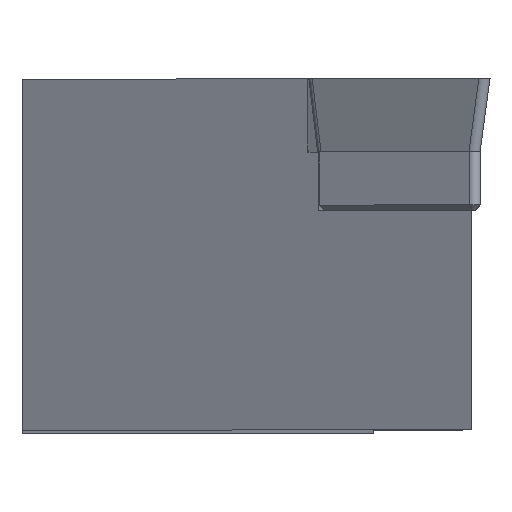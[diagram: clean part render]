
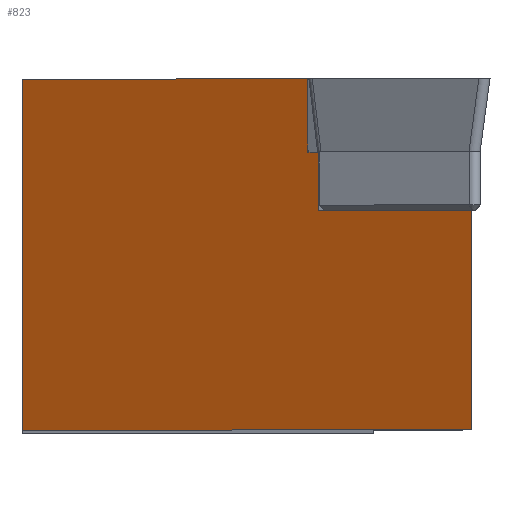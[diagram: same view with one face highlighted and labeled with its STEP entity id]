
A CAD part, top view. The second image highlights one B-rep face of the part: STEP entity #823.
In plain terms, the highlighted planar face has unit normal (-0.53, 0, 0.848).
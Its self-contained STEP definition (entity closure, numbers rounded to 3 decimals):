
#22 = ORIENTED_EDGE ( 'NONE', *, *, #1272, .T. ) ;
#98 = CARTESIAN_POINT ( 'NONE',  ( -12.7, 9.525, -15.692 ) ) ;
#109 = DIRECTION ( 'NONE',  ( 0., -1., 0. ) ) ;
#127 = EDGE_CURVE ( 'NONE', #562, #1043, #810, .T. ) ;
#175 = ORIENTED_EDGE ( 'NONE', *, *, #1026, .F. ) ;
#216 = LINE ( 'NONE', #98, #1587 ) ;
#274 = DIRECTION ( 'NONE',  ( 0.53, 0., -0.848 ) ) ;
#351 = LINE ( 'NONE', #580, #1597 ) ;
#357 = DIRECTION ( 'NONE',  ( 0., -1., 0. ) ) ;
#393 = EDGE_CURVE ( 'NONE', #1175, #1471, #216, .T. ) ;
#407 = DIRECTION ( 'NONE',  ( -0.848, 0., -0.53 ) ) ;
#412 = LINE ( 'NONE', #842, #512 ) ;
#432 = CARTESIAN_POINT ( 'NONE',  ( -12.7, -9.525, -15.692 ) ) ;
#441 = AXIS2_PLACEMENT_3D ( 'NONE', #975, #274, #407 ) ;
#501 = CARTESIAN_POINT ( 'NONE',  ( 12.591, 5.555, 0.111 ) ) ;
#512 = VECTOR ( 'NONE', #698, 1000. ) ;
#534 = CARTESIAN_POINT ( 'NONE',  ( 11.675, 2.375, -0.461 ) ) ;
#551 = EDGE_LOOP ( 'NONE', ( #1736, #175, #1639, #22, #1680, #1238, #1072, #1073 ) ) ;
#562 = VERTEX_POINT ( 'NONE', #1380 ) ;
#580 = CARTESIAN_POINT ( 'NONE',  ( -15.548, 9.525, -17.472 ) ) ;
#639 = CARTESIAN_POINT ( 'NONE',  ( 11.675, -9.525, -0.461 ) ) ;
#677 = CARTESIAN_POINT ( 'NONE',  ( -15.548, -9.525, -17.472 ) ) ;
#688 = VECTOR ( 'NONE', #357, 1000. ) ;
#698 = DIRECTION ( 'NONE',  ( 0., 1., 0. ) ) ;
#810 = LINE ( 'NONE', #501, #1123 ) ;
#822 = EDGE_CURVE ( 'NONE', #960, #969, #412, .T. ) ;
#823 = ADVANCED_FACE ( 'NONE', ( #1519 ), #1110, .F. ) ;
#824 = CARTESIAN_POINT ( 'NONE',  ( 3.393, 2.375, -5.637 ) ) ;
#842 = CARTESIAN_POINT ( 'NONE',  ( 11.675, -9.525, -0.461 ) ) ;
#885 = LINE ( 'NONE', #1562, #1502 ) ;
#909 = VECTOR ( 'NONE', #1351, 1000. ) ;
#960 = VERTEX_POINT ( 'NONE', #639 ) ;
#969 = VERTEX_POINT ( 'NONE', #534 ) ;
#975 = CARTESIAN_POINT ( 'NONE',  ( -15.548, -9.525, -17.472 ) ) ;
#976 = DIRECTION ( 'NONE',  ( -0.848, 0., -0.53 ) ) ;
#982 = VERTEX_POINT ( 'NONE', #1087 ) ;
#984 = CARTESIAN_POINT ( 'NONE',  ( -1.358, 2.375, -8.605 ) ) ;
#1026 = EDGE_CURVE ( 'NONE', #960, #1471, #1256, .T. ) ;
#1029 = EDGE_CURVE ( 'NONE', #1043, #982, #1395, .T. ) ;
#1043 = VERTEX_POINT ( 'NONE', #1485 ) ;
#1072 = ORIENTED_EDGE ( 'NONE', *, *, #1656, .F. ) ;
#1073 = ORIENTED_EDGE ( 'NONE', *, *, #1482, .T. ) ;
#1087 = CARTESIAN_POINT ( 'NONE',  ( 3.393, 2.375, -5.637 ) ) ;
#1096 = VECTOR ( 'NONE', #976, 1000. ) ;
#1104 = CARTESIAN_POINT ( 'NONE',  ( 2.813, 9.525, -5.999 ) ) ;
#1110 = PLANE ( 'NONE',  #441 ) ;
#1123 = VECTOR ( 'NONE', #1212, 1000. ) ;
#1175 = VERTEX_POINT ( 'NONE', #1230 ) ;
#1212 = DIRECTION ( 'NONE',  ( 0.848, 0., 0.53 ) ) ;
#1230 = CARTESIAN_POINT ( 'NONE',  ( -12.7, 9.525, -15.692 ) ) ;
#1238 = ORIENTED_EDGE ( 'NONE', *, *, #127, .F. ) ;
#1256 = LINE ( 'NONE', #677, #909 ) ;
#1272 = EDGE_CURVE ( 'NONE', #969, #982, #1500, .T. ) ;
#1289 = VERTEX_POINT ( 'NONE', #1104 ) ;
#1298 = DIRECTION ( 'NONE',  ( 0., -1., 0. ) ) ;
#1351 = DIRECTION ( 'NONE',  ( -0.848, 0., -0.53 ) ) ;
#1380 = CARTESIAN_POINT ( 'NONE',  ( 2.813, 5.555, -5.999 ) ) ;
#1395 = LINE ( 'NONE', #824, #688 ) ;
#1404 = DIRECTION ( 'NONE',  ( -0.848, 0., -0.53 ) ) ;
#1471 = VERTEX_POINT ( 'NONE', #432 ) ;
#1482 = EDGE_CURVE ( 'NONE', #1289, #1175, #351, .T. ) ;
#1485 = CARTESIAN_POINT ( 'NONE',  ( 3.393, 5.555, -5.637 ) ) ;
#1500 = LINE ( 'NONE', #984, #1096 ) ;
#1502 = VECTOR ( 'NONE', #1298, 1000. ) ;
#1519 = FACE_OUTER_BOUND ( 'NONE', #551, .T. ) ;
#1562 = CARTESIAN_POINT ( 'NONE',  ( 2.813, 7.455, -5.999 ) ) ;
#1587 = VECTOR ( 'NONE', #109, 1000. ) ;
#1597 = VECTOR ( 'NONE', #1404, 1000. ) ;
#1639 = ORIENTED_EDGE ( 'NONE', *, *, #822, .T. ) ;
#1656 = EDGE_CURVE ( 'NONE', #1289, #562, #885, .T. ) ;
#1680 = ORIENTED_EDGE ( 'NONE', *, *, #1029, .F. ) ;
#1736 = ORIENTED_EDGE ( 'NONE', *, *, #393, .T. ) ;
